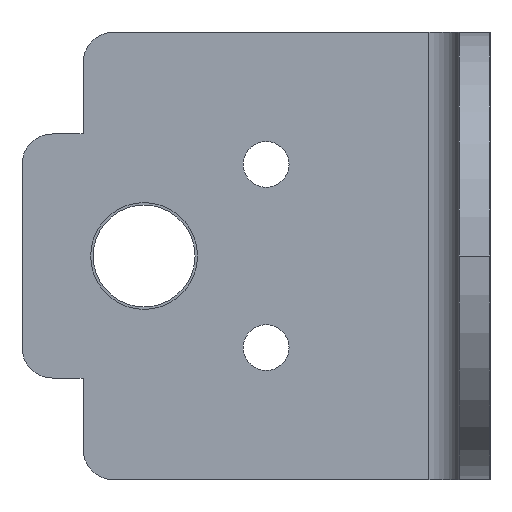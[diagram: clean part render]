
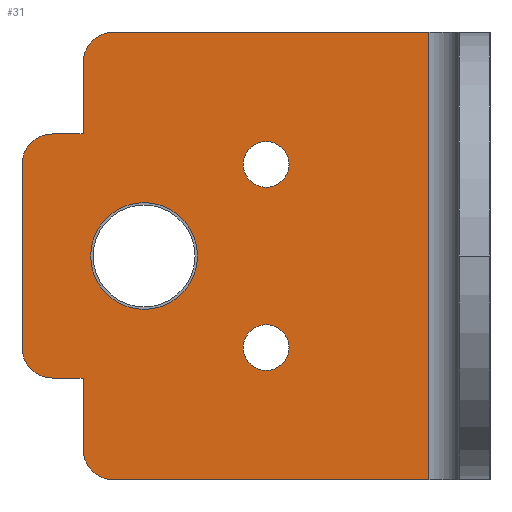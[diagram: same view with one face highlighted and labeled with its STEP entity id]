
A CAD part, left-side view. The second image highlights one B-rep face of the part: STEP entity #31.
In plain terms, the highlighted planar face has unit normal (-1, 0, 0).
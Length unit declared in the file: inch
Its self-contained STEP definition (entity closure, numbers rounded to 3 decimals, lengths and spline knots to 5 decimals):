
#14 = CARTESIAN_POINT ( 'NONE',  ( -2.3125, 0.75, 0.5625 ) ) ;
#15 = AXIS2_PLACEMENT_3D ( 'NONE', #1391, #260, #1538 ) ;
#31 = ADVANCED_FACE ( 'NONE', ( #1708, #412, #121, #699 ), #1854, .T. ) ;
#34 = VECTOR ( 'NONE', #1206, 39.37008 ) ;
#65 = LINE ( 'NONE', #949, #373 ) ;
#71 = VERTEX_POINT ( 'NONE', #298 ) ;
#79 = LINE ( 'NONE', #1260, #1022 ) ;
#97 = DIRECTION ( 'NONE',  ( 0., 0., 1. ) ) ;
#99 = DIRECTION ( 'NONE',  ( 0., -1., 0. ) ) ;
#121 = FACE_BOUND ( 'NONE', #1383, .T. ) ;
#135 = DIRECTION ( 'NONE',  ( 0., 0., 1. ) ) ;
#144 = VERTEX_POINT ( 'NONE', #1425 ) ;
#158 = VERTEX_POINT ( 'NONE', #1813 ) ;
#170 = VERTEX_POINT ( 'NONE', #1537 ) ;
#200 = EDGE_CURVE ( 'NONE', #1008, #1862, #1840, .T. ) ;
#202 = AXIS2_PLACEMENT_3D ( 'NONE', #966, #1685, #695 ) ;
#212 = ORIENTED_EDGE ( 'NONE', *, *, #1851, .F. ) ;
#214 = CARTESIAN_POINT ( 'NONE',  ( -2.3125, 0.5625, 0.5625 ) ) ;
#220 = CIRCLE ( 'NONE', #465, 0.1875 ) ;
#260 = DIRECTION ( 'NONE',  ( -1., 0., 0. ) ) ;
#278 = VECTOR ( 'NONE', #1152, 39.37008 ) ;
#289 = VERTEX_POINT ( 'NONE', #873 ) ;
#291 = ORIENTED_EDGE ( 'NONE', *, *, #724, .F. ) ;
#298 = CARTESIAN_POINT ( 'NONE',  ( -2.3125, 0.5625, -0.75 ) ) ;
#305 = AXIS2_PLACEMENT_3D ( 'NONE', #1388, #1555, #1430 ) ;
#312 = DIRECTION ( 'NONE',  ( -1., 0., 0. ) ) ;
#316 = VERTEX_POINT ( 'NONE', #1199 ) ;
#349 = VERTEX_POINT ( 'NONE', #1754 ) ;
#369 = ORIENTED_EDGE ( 'NONE', *, *, #1494, .F. ) ;
#373 = VECTOR ( 'NONE', #514, 39.37008 ) ;
#374 = LINE ( 'NONE', #1662, #947 ) ;
#390 = DIRECTION ( 'NONE',  ( 0., 0., 1. ) ) ;
#412 = FACE_BOUND ( 'NONE', #1801, .T. ) ;
#465 = AXIS2_PLACEMENT_3D ( 'NONE', #622, #312, #1777 ) ;
#472 = VERTEX_POINT ( 'NONE', #14 ) ;
#473 = CARTESIAN_POINT ( 'NONE',  ( -2.3125, 0.375, 1.375 ) ) ;
#474 = DIRECTION ( 'NONE',  ( 0., 0., 1. ) ) ;
#476 = DIRECTION ( 'NONE',  ( -1., 0., 0. ) ) ;
#480 = ORIENTED_EDGE ( 'NONE', *, *, #679, .F. ) ;
#514 = DIRECTION ( 'NONE',  ( 0., 0., 1. ) ) ;
#533 = ORIENTED_EDGE ( 'NONE', *, *, #1798, .T. ) ;
#549 = CARTESIAN_POINT ( 'NONE',  ( -2.3125, -4.28125, -1.375 ) ) ;
#555 = CIRCLE ( 'NONE', #305, 0.1875 ) ;
#574 = VECTOR ( 'NONE', #829, 39.37008 ) ;
#608 = LINE ( 'NONE', #473, #1727 ) ;
#618 = DIRECTION ( 'NONE',  ( -1., 0., 0. ) ) ;
#622 = CARTESIAN_POINT ( 'NONE',  ( -2.3125, 0.1875, 1.1875 ) ) ;
#626 = ORIENTED_EDGE ( 'NONE', *, *, #632, .T. ) ;
#632 = EDGE_CURVE ( 'NONE', #996, #472, #1441, .T. ) ;
#640 = CARTESIAN_POINT ( 'NONE',  ( -2.3125, 0.1875, -1.375 ) ) ;
#678 = EDGE_CURVE ( 'NONE', #289, #289, #744, .T. ) ;
#679 = EDGE_CURVE ( 'NONE', #158, #71, #79, .T. ) ;
#687 = CIRCLE ( 'NONE', #1784, 0.14062 ) ;
#690 = DIRECTION ( 'NONE',  ( -1., 0., 0. ) ) ;
#695 = DIRECTION ( 'NONE',  ( 0., 0., 1. ) ) ;
#699 = FACE_BOUND ( 'NONE', #1170, .T. ) ;
#724 = EDGE_CURVE ( 'NONE', #1596, #1596, #1805, .T. ) ;
#744 = CIRCLE ( 'NONE', #15, 0.32812 ) ;
#747 = LINE ( 'NONE', #1312, #278 ) ;
#774 = VERTEX_POINT ( 'NONE', #815 ) ;
#815 = CARTESIAN_POINT ( 'NONE',  ( -2.3125, 0.375, -1.1875 ) ) ;
#829 = DIRECTION ( 'NONE',  ( 0., 1., 0. ) ) ;
#836 = EDGE_LOOP ( 'NONE', ( #1821, #1187, #1365, #533, #1756, #626, #369, #1832, #480, #212, #1433, #1213 ) ) ;
#873 = CARTESIAN_POINT ( 'NONE',  ( -2.3125, 0., 0.32812 ) ) ;
#898 = VERTEX_POINT ( 'NONE', #640 ) ;
#947 = VECTOR ( 'NONE', #390, 39.37008 ) ;
#949 = CARTESIAN_POINT ( 'NONE',  ( -2.3125, 0.75, 1.375 ) ) ;
#966 = CARTESIAN_POINT ( 'NONE',  ( -2.3125, -0.75, 0.5625 ) ) ;
#967 = EDGE_CURVE ( 'NONE', #144, #144, #687, .T. ) ;
#989 = DIRECTION ( 'NONE',  ( -1., 0., 0. ) ) ;
#996 = VERTEX_POINT ( 'NONE', #1398 ) ;
#998 = LINE ( 'NONE', #549, #574 ) ;
#1008 = VERTEX_POINT ( 'NONE', #1118 ) ;
#1022 = VECTOR ( 'NONE', #1119, 39.37008 ) ;
#1023 = EDGE_CURVE ( 'NONE', #349, #898, #998, .T. ) ;
#1025 = CARTESIAN_POINT ( 'NONE',  ( -2.3125, -0.75, 0.70313 ) ) ;
#1048 = DIRECTION ( 'NONE',  ( 0., 0., 1. ) ) ;
#1068 = AXIS2_PLACEMENT_3D ( 'NONE', #1279, #989, #135 ) ;
#1118 = CARTESIAN_POINT ( 'NONE',  ( -2.3125, 0.1875, 1.375 ) ) ;
#1119 = DIRECTION ( 'NONE',  ( 0., 1., 0. ) ) ;
#1120 = EDGE_CURVE ( 'NONE', #1183, #996, #747, .T. ) ;
#1152 = DIRECTION ( 'NONE',  ( 0., 1., 0. ) ) ;
#1157 = DIRECTION ( 'NONE',  ( 0., 0., -1. ) ) ;
#1169 = CARTESIAN_POINT ( 'NONE',  ( -2.3125, 0.375, 0.75 ) ) ;
#1170 = EDGE_LOOP ( 'NONE', ( #1759 ) ) ;
#1176 = EDGE_CURVE ( 'NONE', #1008, #170, #220, .T. ) ;
#1183 = VERTEX_POINT ( 'NONE', #1169 ) ;
#1187 = ORIENTED_EDGE ( 'NONE', *, *, #200, .F. ) ;
#1199 = CARTESIAN_POINT ( 'NONE',  ( -2.3125, 0.75, -0.5625 ) ) ;
#1206 = DIRECTION ( 'NONE',  ( 0., 0., -1. ) ) ;
#1213 = ORIENTED_EDGE ( 'NONE', *, *, #1023, .F. ) ;
#1241 = CIRCLE ( 'NONE', #1068, 0.1875 ) ;
#1260 = CARTESIAN_POINT ( 'NONE',  ( -2.3125, 0.75, -0.75 ) ) ;
#1269 = CARTESIAN_POINT ( 'NONE',  ( -2.3125, -4.28125, 1.375 ) ) ;
#1279 = CARTESIAN_POINT ( 'NONE',  ( -2.3125, 0.5625, -0.5625 ) ) ;
#1312 = CARTESIAN_POINT ( 'NONE',  ( -2.3125, 0.75, 0.75 ) ) ;
#1320 = AXIS2_PLACEMENT_3D ( 'NONE', #214, #618, #474 ) ;
#1365 = ORIENTED_EDGE ( 'NONE', *, *, #1176, .T. ) ;
#1383 = EDGE_LOOP ( 'NONE', ( #1642 ) ) ;
#1388 = CARTESIAN_POINT ( 'NONE',  ( -2.3125, 0.1875, -1.1875 ) ) ;
#1391 = CARTESIAN_POINT ( 'NONE',  ( -2.3125, 0., 0. ) ) ;
#1398 = CARTESIAN_POINT ( 'NONE',  ( -2.3125, 0.5625, 0.75 ) ) ;
#1408 = CARTESIAN_POINT ( 'NONE',  ( -2.3125, -0.75, -0.5625 ) ) ;
#1409 = EDGE_CURVE ( 'NONE', #1862, #349, #1524, .T. ) ;
#1425 = CARTESIAN_POINT ( 'NONE',  ( -2.3125, -0.75, -0.42188 ) ) ;
#1430 = DIRECTION ( 'NONE',  ( 0., 0., 1. ) ) ;
#1433 = ORIENTED_EDGE ( 'NONE', *, *, #1575, .T. ) ;
#1441 = CIRCLE ( 'NONE', #1320, 0.1875 ) ;
#1494 = EDGE_CURVE ( 'NONE', #316, #472, #65, .T. ) ;
#1524 = LINE ( 'NONE', #1666, #34 ) ;
#1537 = CARTESIAN_POINT ( 'NONE',  ( -2.3125, 0.375, 1.1875 ) ) ;
#1538 = DIRECTION ( 'NONE',  ( 0., 0., 1. ) ) ;
#1555 = DIRECTION ( 'NONE',  ( -1., 0., 0. ) ) ;
#1567 = VECTOR ( 'NONE', #99, 39.37008 ) ;
#1575 = EDGE_CURVE ( 'NONE', #774, #898, #555, .T. ) ;
#1596 = VERTEX_POINT ( 'NONE', #1025 ) ;
#1600 = CARTESIAN_POINT ( 'NONE',  ( -2.3125, -1.76562, 0. ) ) ;
#1640 = EDGE_CURVE ( 'NONE', #316, #71, #1241, .T. ) ;
#1642 = ORIENTED_EDGE ( 'NONE', *, *, #967, .F. ) ;
#1662 = CARTESIAN_POINT ( 'NONE',  ( -2.3125, 0.375, -1.375 ) ) ;
#1666 = CARTESIAN_POINT ( 'NONE',  ( -2.3125, -1.75, 0. ) ) ;
#1681 = AXIS2_PLACEMENT_3D ( 'NONE', #1600, #476, #1048 ) ;
#1685 = DIRECTION ( 'NONE',  ( -1., 0., 0. ) ) ;
#1700 = CARTESIAN_POINT ( 'NONE',  ( -2.3125, -1.75, 1.375 ) ) ;
#1708 = FACE_OUTER_BOUND ( 'NONE', #836, .T. ) ;
#1727 = VECTOR ( 'NONE', #1157, 39.37008 ) ;
#1754 = CARTESIAN_POINT ( 'NONE',  ( -2.3125, -1.75, -1.375 ) ) ;
#1756 = ORIENTED_EDGE ( 'NONE', *, *, #1120, .T. ) ;
#1759 = ORIENTED_EDGE ( 'NONE', *, *, #678, .F. ) ;
#1777 = DIRECTION ( 'NONE',  ( 0., 0., 1. ) ) ;
#1784 = AXIS2_PLACEMENT_3D ( 'NONE', #1408, #690, #97 ) ;
#1798 = EDGE_CURVE ( 'NONE', #170, #1183, #608, .T. ) ;
#1801 = EDGE_LOOP ( 'NONE', ( #291 ) ) ;
#1805 = CIRCLE ( 'NONE', #202, 0.14062 ) ;
#1813 = CARTESIAN_POINT ( 'NONE',  ( -2.3125, 0.375, -0.75 ) ) ;
#1821 = ORIENTED_EDGE ( 'NONE', *, *, #1409, .F. ) ;
#1832 = ORIENTED_EDGE ( 'NONE', *, *, #1640, .T. ) ;
#1840 = LINE ( 'NONE', #1269, #1567 ) ;
#1851 = EDGE_CURVE ( 'NONE', #774, #158, #374, .T. ) ;
#1854 = PLANE ( 'NONE',  #1681 ) ;
#1862 = VERTEX_POINT ( 'NONE', #1700 ) ;
